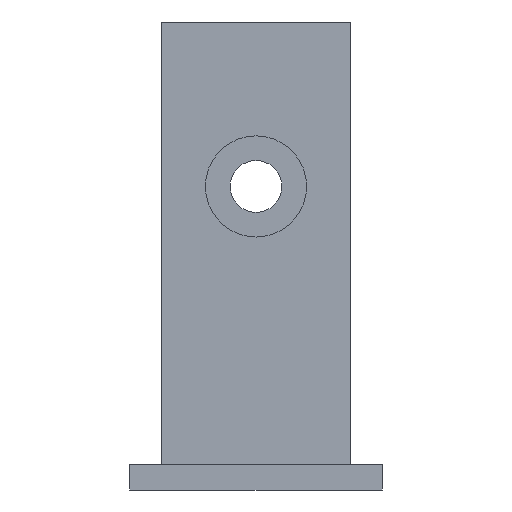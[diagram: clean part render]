
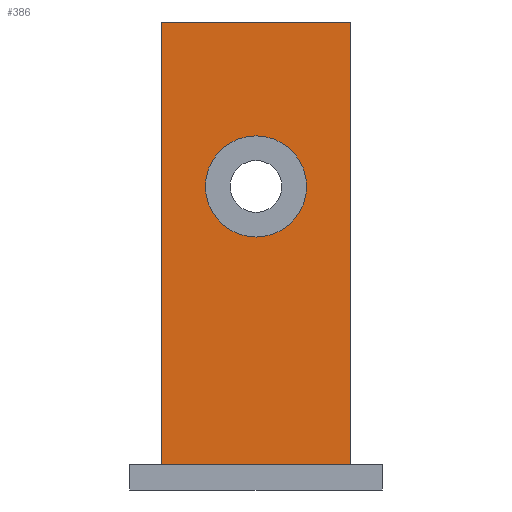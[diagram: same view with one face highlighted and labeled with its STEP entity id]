
A CAD part, left-side view. The second image highlights one B-rep face of the part: STEP entity #386.
In plain terms, the highlighted planar face has unit normal (-1, 0, 0).
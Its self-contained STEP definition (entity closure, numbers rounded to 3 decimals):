
#132 = VERTEX_POINT('',#133);
#133 = CARTESIAN_POINT('',(4.,5.,4.));
#139 = EDGE_CURVE('',#132,#140,#142,.T.);
#140 = VERTEX_POINT('',#141);
#141 = CARTESIAN_POINT('',(4.,35.,4.));
#142 = LINE('',#143,#144);
#143 = CARTESIAN_POINT('',(4.,2.5,4.));
#144 = VECTOR('',#145,1.);
#145 = DIRECTION('',(-0.,1.,0.));
#329 = EDGE_CURVE('',#132,#330,#332,.T.);
#330 = VERTEX_POINT('',#331);
#331 = CARTESIAN_POINT('',(4.,5.,74.));
#332 = LINE('',#333,#334);
#333 = CARTESIAN_POINT('',(4.,5.,0.));
#334 = VECTOR('',#335,1.);
#335 = DIRECTION('',(0.,0.,1.));
#386 = ADVANCED_FACE('',(#387,#405),#416,.F.);
#387 = FACE_BOUND('',#388,.F.);
#388 = EDGE_LOOP('',(#389,#390,#391,#399));
#389 = ORIENTED_EDGE('',*,*,#329,.F.);
#390 = ORIENTED_EDGE('',*,*,#139,.T.);
#391 = ORIENTED_EDGE('',*,*,#392,.T.);
#392 = EDGE_CURVE('',#140,#393,#395,.T.);
#393 = VERTEX_POINT('',#394);
#394 = CARTESIAN_POINT('',(4.,35.,74.));
#395 = LINE('',#396,#397);
#396 = CARTESIAN_POINT('',(4.,35.,0.));
#397 = VECTOR('',#398,1.);
#398 = DIRECTION('',(0.,0.,1.));
#399 = ORIENTED_EDGE('',*,*,#400,.F.);
#400 = EDGE_CURVE('',#330,#393,#401,.T.);
#401 = LINE('',#402,#403);
#402 = CARTESIAN_POINT('',(4.,5.,74.));
#403 = VECTOR('',#404,1.);
#404 = DIRECTION('',(-0.,1.,0.));
#405 = FACE_BOUND('',#406,.F.);
#406 = EDGE_LOOP('',(#407));
#407 = ORIENTED_EDGE('',*,*,#408,.F.);
#408 = EDGE_CURVE('',#409,#409,#411,.T.);
#409 = VERTEX_POINT('',#410);
#410 = CARTESIAN_POINT('',(4.,20.,56.));
#411 = CIRCLE('',#412,8.);
#412 = AXIS2_PLACEMENT_3D('',#413,#414,#415);
#413 = CARTESIAN_POINT('',(4.,20.,48.));
#414 = DIRECTION('',(1.,0.,0.));
#415 = DIRECTION('',(-0.,0.,1.));
#416 = PLANE('',#417);
#417 = AXIS2_PLACEMENT_3D('',#418,#419,#420);
#418 = CARTESIAN_POINT('',(4.,5.,0.));
#419 = DIRECTION('',(1.,0.,-0.));
#420 = DIRECTION('',(0.,0.,1.));
